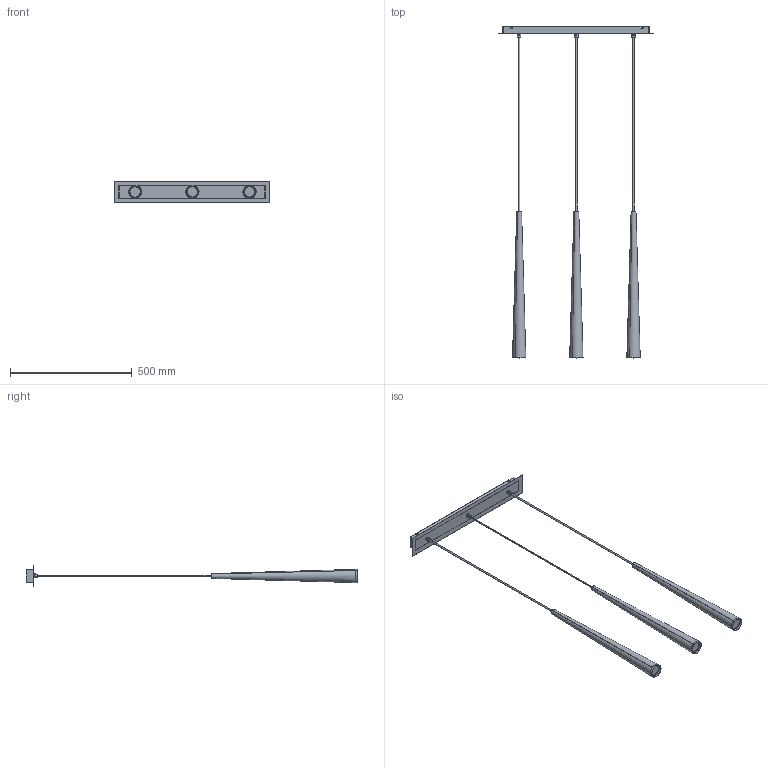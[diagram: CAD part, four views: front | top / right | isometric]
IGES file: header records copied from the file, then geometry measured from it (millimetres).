
Start section: SolidWorks IGES file using analytic representation for surfaces
Global section: file name: Z:\Modele 3D_WWW\_KOLEKCJE_WWW\QUEBECK\QUEBECK-5406-5404\QUEBECK-5406-5404.IGS; native system: SolidWorks 2020; preprocessor: SolidWorks 2020; author: gabriela.tworek; date: 210413.104147; units: millimetre
Bounding box: 640 x 1364.27 x 90 mm (x, y, z)
Surface area: 742489.9 mm2 (no closed solid volume)
Topology: 0 solids, 0 shells, 251 faces, 4067 edges, 4063 vertices
Faces by surface type: bspline 141, revolution 110
